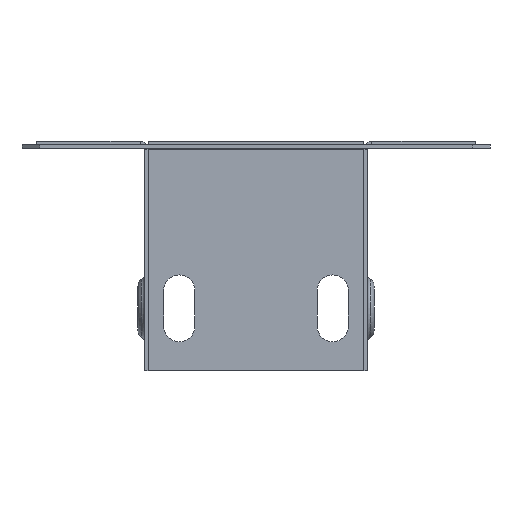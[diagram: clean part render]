
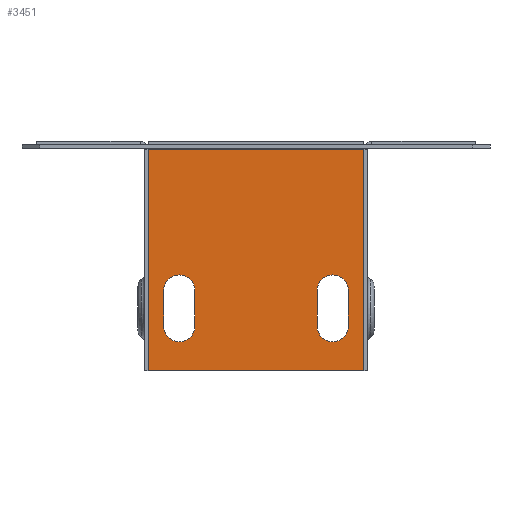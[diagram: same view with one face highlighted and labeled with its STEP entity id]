
A CAD part, left-side view. The second image highlights one B-rep face of the part: STEP entity #3451.
In plain terms, the highlighted planar face has unit normal (-1, 0, 0) as drawn and (0, 1, 0) by its records, which use the part's own axes.
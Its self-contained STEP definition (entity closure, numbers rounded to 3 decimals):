
#90 = DIRECTION ( 'NONE',  ( 0., 1., 0. ) ) ;
#121 = EDGE_CURVE ( 'NONE', #4297, #497, #1319, .T. ) ;
#141 = VERTEX_POINT ( 'NONE', #5127 ) ;
#148 = DIRECTION ( 'NONE',  ( 0., 0., 1. ) ) ;
#159 = VECTOR ( 'NONE', #4492, 1000. ) ;
#178 = CARTESIAN_POINT ( 'NONE',  ( -13.7, 0.8, 41.5 ) ) ;
#218 = DIRECTION ( 'NONE',  ( 0., 0., 1. ) ) ;
#268 = VERTEX_POINT ( 'NONE', #6026 ) ;
#367 = EDGE_LOOP ( 'NONE', ( #1414, #1783, #5445, #5356, #3396 ) ) ;
#425 = EDGE_LOOP ( 'NONE', ( #6087, #2835, #4110, #4702, #1128 ) ) ;
#497 = VERTEX_POINT ( 'NONE', #5830 ) ;
#538 = EDGE_CURVE ( 'NONE', #3303, #268, #6099, .T. ) ;
#627 = EDGE_CURVE ( 'NONE', #4155, #4173, #4277, .T. ) ;
#670 = AXIS2_PLACEMENT_3D ( 'NONE', #4573, #1676, #5061 ) ;
#768 = VECTOR ( 'NONE', #218, 1000. ) ;
#857 = DIRECTION ( 'NONE',  ( 0., 0., 1. ) ) ;
#917 = CARTESIAN_POINT ( 'NONE',  ( 20.7, 0.8, 41.5 ) ) ;
#940 = EDGE_CURVE ( 'NONE', #141, #5809, #2899, .T. ) ;
#979 = VECTOR ( 'NONE', #4362, 1000. ) ;
#993 = CARTESIAN_POINT ( 'NONE',  ( 17.2, 0.8, 45. ) ) ;
#1021 = AXIS2_PLACEMENT_3D ( 'NONE', #5960, #3069, #148 ) ;
#1061 = EDGE_CURVE ( 'NONE', #3303, #4297, #1294, .T. ) ;
#1067 = LINE ( 'NONE', #178, #768 ) ;
#1128 = ORIENTED_EDGE ( 'NONE', *, *, #5164, .F. ) ;
#1157 = EDGE_CURVE ( 'NONE', #3398, #2522, #4394, .T. ) ;
#1167 = DIRECTION ( 'NONE',  ( 0., 0., -1. ) ) ;
#1222 = CARTESIAN_POINT ( 'NONE',  ( 24.2, 0.8, 1.8 ) ) ;
#1294 = LINE ( 'NONE', #4420, #979 ) ;
#1316 = PLANE ( 'NONE',  #4698 ) ;
#1319 = LINE ( 'NONE', #5020, #4874 ) ;
#1326 = VECTOR ( 'NONE', #6094, 1000. ) ;
#1406 = DIRECTION ( 'NONE',  ( 0., 0., 1. ) ) ;
#1414 = ORIENTED_EDGE ( 'NONE', *, *, #5650, .T. ) ;
#1648 = DIRECTION ( 'NONE',  ( 0., 1., 0. ) ) ;
#1676 = DIRECTION ( 'NONE',  ( 0., -1., 0. ) ) ;
#1679 = FACE_BOUND ( 'NONE', #367, .T. ) ;
#1680 = CARTESIAN_POINT ( 'NONE',  ( -13.7, 0.8, 33.5 ) ) ;
#1783 = ORIENTED_EDGE ( 'NONE', *, *, #4568, .T. ) ;
#1815 = CIRCLE ( 'NONE', #3419, 3.5 ) ;
#1985 = VERTEX_POINT ( 'NONE', #2531 ) ;
#2039 = CARTESIAN_POINT ( 'NONE',  ( 17.2, 0.8, 41.5 ) ) ;
#2522 = VERTEX_POINT ( 'NONE', #993 ) ;
#2531 = CARTESIAN_POINT ( 'NONE',  ( -13.7, 0.8, 41.5 ) ) ;
#2634 = CARTESIAN_POINT ( 'NONE',  ( -17.2, 0.8, 45. ) ) ;
#2807 = CARTESIAN_POINT ( 'NONE',  ( 13.7, 0.8, 41.5 ) ) ;
#2830 = DIRECTION ( 'NONE',  ( 0., -1., 0. ) ) ;
#2835 = ORIENTED_EDGE ( 'NONE', *, *, #3426, .F. ) ;
#2899 = CIRCLE ( 'NONE', #5803, 3.5 ) ;
#3013 = CARTESIAN_POINT ( 'NONE',  ( 17.2, 0.8, 33.5 ) ) ;
#3065 = CARTESIAN_POINT ( 'NONE',  ( -17.2, 0.8, 33.5 ) ) ;
#3069 = DIRECTION ( 'NONE',  ( 0., -1., 0. ) ) ;
#3125 = EDGE_CURVE ( 'NONE', #5809, #1985, #1067, .T. ) ;
#3129 = FACE_OUTER_BOUND ( 'NONE', #6256, .T. ) ;
#3198 = ORIENTED_EDGE ( 'NONE', *, *, #538, .F. ) ;
#3213 = VECTOR ( 'NONE', #1167, 1000. ) ;
#3248 = EDGE_CURVE ( 'NONE', #3322, #3398, #3870, .T. ) ;
#3295 = VERTEX_POINT ( 'NONE', #2634 ) ;
#3303 = VERTEX_POINT ( 'NONE', #1222 ) ;
#3322 = VERTEX_POINT ( 'NONE', #5392 ) ;
#3348 = ORIENTED_EDGE ( 'NONE', *, *, #3962, .F. ) ;
#3366 = CARTESIAN_POINT ( 'NONE',  ( -20.7, 0.8, 41.5 ) ) ;
#3383 = CARTESIAN_POINT ( 'NONE',  ( -24.2, 0.8, 1.8 ) ) ;
#3396 = ORIENTED_EDGE ( 'NONE', *, *, #3125, .T. ) ;
#3398 = VERTEX_POINT ( 'NONE', #2807 ) ;
#3419 = AXIS2_PLACEMENT_3D ( 'NONE', #6124, #6107, #5760 ) ;
#3426 = EDGE_CURVE ( 'NONE', #2522, #4155, #1815, .T. ) ;
#3451 = ADVANCED_FACE ( 'NONE', ( #3129, #5383, #1679 ), #1316, .F. ) ;
#3490 = DIRECTION ( 'NONE',  ( 0., 0., 1. ) ) ;
#3521 = VECTOR ( 'NONE', #857, 1000. ) ;
#3833 = LINE ( 'NONE', #3366, #6246 ) ;
#3849 = DIRECTION ( 'NONE',  ( 0., 0., -1. ) ) ;
#3870 = LINE ( 'NONE', #4529, #159 ) ;
#3906 = LINE ( 'NONE', #5220, #1326 ) ;
#3927 = DIRECTION ( 'NONE',  ( 0., 0., 1. ) ) ;
#3962 = EDGE_CURVE ( 'NONE', #268, #497, #3906, .T. ) ;
#4110 = ORIENTED_EDGE ( 'NONE', *, *, #1157, .F. ) ;
#4155 = VERTEX_POINT ( 'NONE', #6192 ) ;
#4173 = VERTEX_POINT ( 'NONE', #5712 ) ;
#4277 = LINE ( 'NONE', #917, #3213 ) ;
#4297 = VERTEX_POINT ( 'NONE', #3383 ) ;
#4362 = DIRECTION ( 'NONE',  ( -1., 0., 0. ) ) ;
#4383 = AXIS2_PLACEMENT_3D ( 'NONE', #2039, #1648, #1406 ) ;
#4394 = CIRCLE ( 'NONE', #4383, 3.5 ) ;
#4420 = CARTESIAN_POINT ( 'NONE',  ( 24.2, 0.8, 1.8 ) ) ;
#4492 = DIRECTION ( 'NONE',  ( 0., 0., 1. ) ) ;
#4529 = CARTESIAN_POINT ( 'NONE',  ( 13.7, 0.8, 41.5 ) ) ;
#4568 = EDGE_CURVE ( 'NONE', #3295, #6045, #6191, .T. ) ;
#4573 = CARTESIAN_POINT ( 'NONE',  ( -17.2, 0.8, 41.5 ) ) ;
#4698 = AXIS2_PLACEMENT_3D ( 'NONE', #5736, #5656, #5639 ) ;
#4702 = ORIENTED_EDGE ( 'NONE', *, *, #3248, .F. ) ;
#4874 = VECTOR ( 'NONE', #5004, 1000. ) ;
#5004 = DIRECTION ( 'NONE',  ( 0., 0., 1. ) ) ;
#5020 = CARTESIAN_POINT ( 'NONE',  ( -24.2, 0.8, 0. ) ) ;
#5061 = DIRECTION ( 'NONE',  ( 0., 0., 1. ) ) ;
#5095 = AXIS2_PLACEMENT_3D ( 'NONE', #3013, #90, #3490 ) ;
#5127 = CARTESIAN_POINT ( 'NONE',  ( -20.7, 0.8, 33.5 ) ) ;
#5164 = EDGE_CURVE ( 'NONE', #4173, #3322, #6180, .T. ) ;
#5195 = CARTESIAN_POINT ( 'NONE',  ( 24.2, 0.8, 0. ) ) ;
#5205 = CIRCLE ( 'NONE', #1021, 3.5 ) ;
#5220 = CARTESIAN_POINT ( 'NONE',  ( 24.2, 0.8, 51.5 ) ) ;
#5356 = ORIENTED_EDGE ( 'NONE', *, *, #940, .T. ) ;
#5383 = FACE_BOUND ( 'NONE', #425, .T. ) ;
#5385 = ORIENTED_EDGE ( 'NONE', *, *, #121, .T. ) ;
#5392 = CARTESIAN_POINT ( 'NONE',  ( 13.7, 0.8, 33.5 ) ) ;
#5413 = EDGE_CURVE ( 'NONE', #6045, #141, #3833, .T. ) ;
#5445 = ORIENTED_EDGE ( 'NONE', *, *, #5413, .T. ) ;
#5481 = CARTESIAN_POINT ( 'NONE',  ( -20.7, 0.8, 41.5 ) ) ;
#5639 = DIRECTION ( 'NONE',  ( 0., 0., -1. ) ) ;
#5650 = EDGE_CURVE ( 'NONE', #1985, #3295, #5205, .T. ) ;
#5656 = DIRECTION ( 'NONE',  ( 0., -1., 0. ) ) ;
#5712 = CARTESIAN_POINT ( 'NONE',  ( 20.7, 0.8, 33.5 ) ) ;
#5736 = CARTESIAN_POINT ( 'NONE',  ( 24.2, 0.8, 0. ) ) ;
#5760 = DIRECTION ( 'NONE',  ( 0., 0., 1. ) ) ;
#5803 = AXIS2_PLACEMENT_3D ( 'NONE', #3065, #2830, #3927 ) ;
#5809 = VERTEX_POINT ( 'NONE', #1680 ) ;
#5830 = CARTESIAN_POINT ( 'NONE',  ( -24.2, 0.8, 51.5 ) ) ;
#5960 = CARTESIAN_POINT ( 'NONE',  ( -17.2, 0.8, 41.5 ) ) ;
#6008 = ORIENTED_EDGE ( 'NONE', *, *, #1061, .T. ) ;
#6026 = CARTESIAN_POINT ( 'NONE',  ( 24.2, 0.8, 51.5 ) ) ;
#6045 = VERTEX_POINT ( 'NONE', #5481 ) ;
#6087 = ORIENTED_EDGE ( 'NONE', *, *, #627, .F. ) ;
#6094 = DIRECTION ( 'NONE',  ( -1., 0., 0. ) ) ;
#6099 = LINE ( 'NONE', #5195, #3521 ) ;
#6107 = DIRECTION ( 'NONE',  ( 0., 1., 0. ) ) ;
#6124 = CARTESIAN_POINT ( 'NONE',  ( 17.2, 0.8, 41.5 ) ) ;
#6180 = CIRCLE ( 'NONE', #5095, 3.5 ) ;
#6191 = CIRCLE ( 'NONE', #670, 3.5 ) ;
#6192 = CARTESIAN_POINT ( 'NONE',  ( 20.7, 0.8, 41.5 ) ) ;
#6246 = VECTOR ( 'NONE', #3849, 1000. ) ;
#6256 = EDGE_LOOP ( 'NONE', ( #5385, #3348, #3198, #6008 ) ) ;
